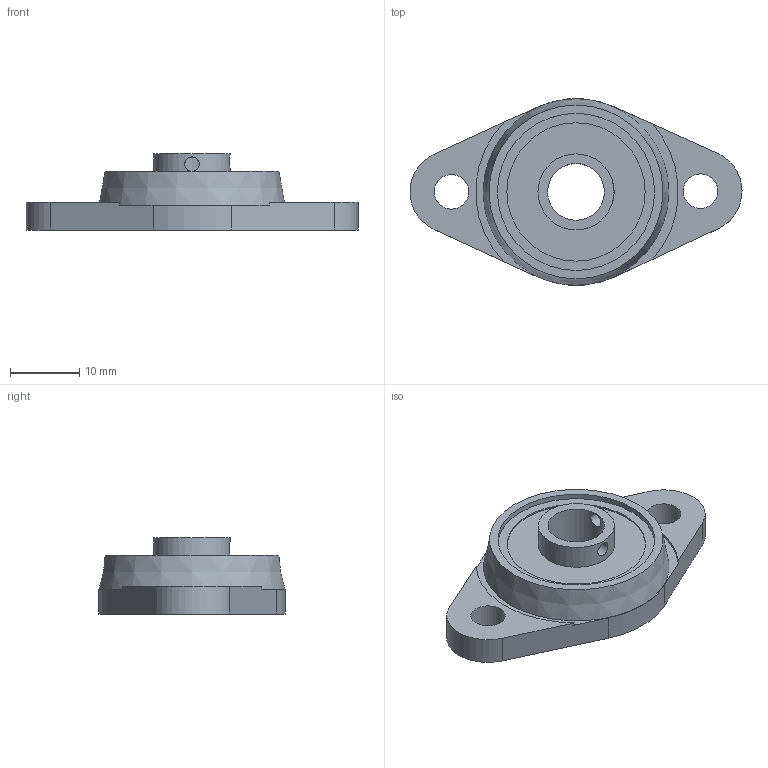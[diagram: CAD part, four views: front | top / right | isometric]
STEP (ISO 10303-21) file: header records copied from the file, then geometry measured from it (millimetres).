
FILE_DESCRIPTION(('FreeCAD Model'),'2;1');
FILE_NAME('Open CASCADE Shape Model','2021-05-04T15:19:33',('Author'),( ''),'Open CASCADE STEP processor 7.5','FreeCAD','Unknown');
FILE_SCHEMA(('AUTOMOTIVE_DESIGN { 1 0 10303 214 1 1 1 1 }'));
Length unit declared in the file: millimetre
Products named in the file (1): KFL08 v1
Bounding box: 48 x 26.91 x 11 mm (x, y, z)
Volume: 5054.2 mm3; surface area: 2973.3 mm2
Topology: 1 solids, 1 shells, 27 faces, 71 edges, 48 vertices
Faces by surface type: cylinder 14, plane 12, cone 1
Full cylindrical faces by diameter (mm): 2.075 x2, 5 x2, 8.2 x1, 11 x1, 20 x1, 22.722 x1
Entity records: 2721 total; most frequent: CARTESIAN_POINT 1260, DIRECTION 252, ORIENTED_EDGE 142, PCURVE 142, DEFINITIONAL_REPRESENTATION 142, LINE 131, VECTOR 131, EDGE_CURVE 71
